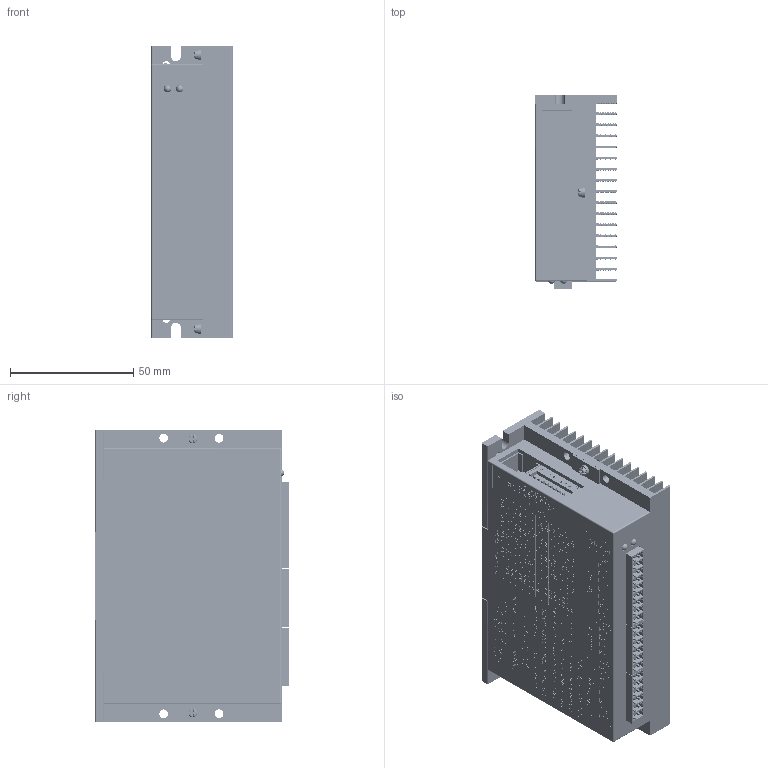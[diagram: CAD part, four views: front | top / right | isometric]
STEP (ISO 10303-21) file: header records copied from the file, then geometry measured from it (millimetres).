
FILE_DESCRIPTION((''),'2;1');
FILE_NAME('2LS566A','2025-07-09T18:11:02',('Administrator'),(''),'CREO PARAMETRIC BY PTC INC, 2018400','CREO PARAMETRIC BY PTC INC, 2018400','');
FILE_SCHEMA(('CONFIG_CONTROL_DESIGN'));
Products named in the file (1): 2LS566A
Bounding box: 33 x 78.48 x 118 mm (x, y, z)
Volume: 208538.3 mm3; surface area: 80872.5 mm2
Topology: 1 solids, 1 shells, 20079 faces, 57059 edges, 38006 vertices
Faces by surface type: plane 19821, cylinder 156, extrusion 64, bspline 16, sphere 14, torus 8
Entity records: 644975 total; most frequent: CARTESIAN_POINT 122109, ORIENTED_EDGE 114090, DIRECTION 97255, EDGE_CURVE 57045, VECTOR 56455, LINE 56391, VERTEX_POINT 38006, EDGE_LOOP 21151
